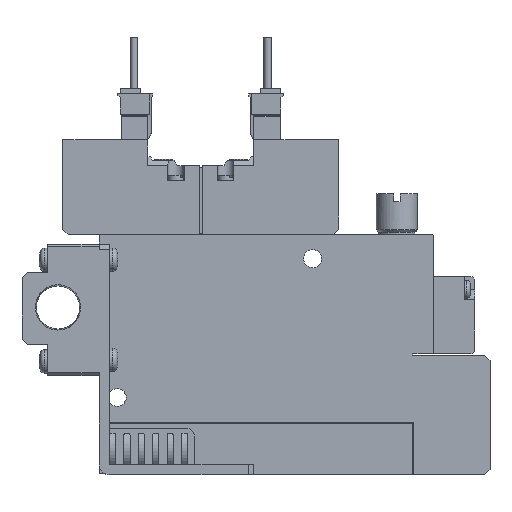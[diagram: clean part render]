
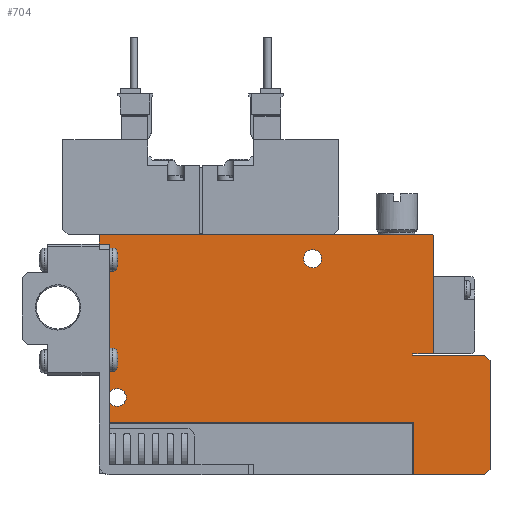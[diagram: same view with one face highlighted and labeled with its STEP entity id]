
A CAD part, top view. The second image highlights one B-rep face of the part: STEP entity #704.
In plain terms, the highlighted planar face has unit normal (0, 0, 1).
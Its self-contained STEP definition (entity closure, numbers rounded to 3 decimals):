
#704=ADVANCED_FACE('',(#1665,#1666,#1667),#1668,.F.);
#1665=FACE_OUTER_BOUND('',#2832,.T.);
#1666=FACE_BOUND('',#2833,.T.);
#1667=FACE_BOUND('',#2834,.T.);
#1668=PLANE('',#2835);
#2832=EDGE_LOOP('',(#6341,#6342,#6343,#6344,#6345,#6346,#6347,#6348,#6349,#6350,#6351,#6352,#6353,#6354));
#2833=EDGE_LOOP('',(#6355));
#2834=EDGE_LOOP('',(#6356));
#2835=AXIS2_PLACEMENT_3D('',#6357,#6358,#6359);
#6341=ORIENTED_EDGE('',*,*,#8533,.T.);
#6342=ORIENTED_EDGE('',*,*,#8404,.F.);
#6343=ORIENTED_EDGE('',*,*,#8588,.F.);
#6344=ORIENTED_EDGE('',*,*,#8361,.T.);
#6345=ORIENTED_EDGE('',*,*,#8451,.T.);
#6346=ORIENTED_EDGE('',*,*,#8586,.T.);
#6347=ORIENTED_EDGE('',*,*,#8255,.T.);
#6348=ORIENTED_EDGE('',*,*,#8252,.T.);
#6349=ORIENTED_EDGE('',*,*,#8259,.T.);
#6350=ORIENTED_EDGE('',*,*,#8345,.T.);
#6351=ORIENTED_EDGE('',*,*,#8217,.T.);
#6352=ORIENTED_EDGE('',*,*,#8214,.T.);
#6353=ORIENTED_EDGE('',*,*,#8221,.T.);
#6354=ORIENTED_EDGE('',*,*,#8575,.T.);
#6355=ORIENTED_EDGE('',*,*,#8589,.F.);
#6356=ORIENTED_EDGE('',*,*,#8582,.F.);
#6357=CARTESIAN_POINT('',(0.0,0.0,5.0));
#6358=DIRECTION('',(0.0,0.0,-1.0));
#6359=DIRECTION('',(0.0,-1.0,0.0));
#8214=EDGE_CURVE('',#10057,#10055,#10058,.T.);
#8217=EDGE_CURVE('',#10062,#10057,#10063,.T.);
#8221=EDGE_CURVE('',#10055,#10067,#10069,.T.);
#8252=EDGE_CURVE('',#10129,#10127,#10130,.T.);
#8255=EDGE_CURVE('',#10134,#10129,#10135,.T.);
#8259=EDGE_CURVE('',#10127,#10139,#10141,.T.);
#8345=EDGE_CURVE('',#10139,#10062,#10302,.T.);
#8361=EDGE_CURVE('',#10326,#10330,#10332,.T.);
#8404=EDGE_CURVE('',#10405,#10406,#10407,.T.);
#8451=EDGE_CURVE('',#10330,#10485,#10487,.T.);
#8533=EDGE_CURVE('',#10614,#10406,#10615,.T.);
#8575=EDGE_CURVE('',#10067,#10614,#10672,.T.);
#8582=EDGE_CURVE('',#10681,#10681,#10682,.T.);
#8586=EDGE_CURVE('',#10485,#10134,#10686,.T.);
#8588=EDGE_CURVE('',#10326,#10405,#10688,.T.);
#8589=EDGE_CURVE('',#10689,#10689,#10690,.T.);
#10055=VERTEX_POINT('',#13047);
#10057=VERTEX_POINT('',#13050);
#10058=LINE('',#13051,#13052);
#10062=VERTEX_POINT('',#13058);
#10063=LINE('',#13059,#13060);
#10067=VERTEX_POINT('',#13066);
#10069=LINE('',#13069,#13070);
#10127=VERTEX_POINT('',#13191);
#10129=VERTEX_POINT('',#13194);
#10130=LINE('',#13195,#13196);
#10134=VERTEX_POINT('',#13202);
#10135=LINE('',#13203,#13204);
#10139=VERTEX_POINT('',#13210);
#10141=LINE('',#13213,#13214);
#10302=LINE('',#13482,#13483);
#10326=VERTEX_POINT('',#13532);
#10330=VERTEX_POINT('',#13538);
#10332=LINE('',#13541,#13542);
#10405=VERTEX_POINT('',#13653);
#10406=VERTEX_POINT('',#13654);
#10407=LINE('',#13655,#13656);
#10485=VERTEX_POINT('',#13780);
#10487=LINE('',#13783,#13784);
#10614=VERTEX_POINT('',#14019);
#10615=LINE('',#14020,#14021);
#10672=LINE('',#14133,#14134);
#10681=VERTEX_POINT('',#14156);
#10682=CIRCLE('',#14157,1.75);
#10686=LINE('',#14164,#14165);
#10688=LINE('',#14168,#14169);
#10689=VERTEX_POINT('',#14170);
#10690=CIRCLE('',#14171,1.75);
#13047=CARTESIAN_POINT('',(64.8,46.6,5.0));
#13050=CARTESIAN_POINT('',(65.0,46.4,5.0));
#13051=CARTESIAN_POINT('',(65.0,46.4,5.0));
#13052=VECTOR('',#16134,1.0);
#13058=CARTESIAN_POINT('',(65.0,23.5,5.0));
#13059=CARTESIAN_POINT('',(65.0,23.5,5.0));
#13060=VECTOR('',#16137,1.0);
#13066=CARTESIAN_POINT('',(0.2,46.6,5.0));
#13069=CARTESIAN_POINT('',(64.8,46.6,5.0));
#13070=VECTOR('',#16141,1.0);
#13191=CARTESIAN_POINT('',(61.0,23.25,5.0));
#13194=CARTESIAN_POINT('',(75.0,23.25,5.0));
#13195=CARTESIAN_POINT('',(75.0,23.25,5.0));
#13196=VECTOR('',#16185,1.0);
#13202=CARTESIAN_POINT('',(76.0,22.25,5.0));
#13203=CARTESIAN_POINT('',(76.0,22.25,5.0));
#13204=VECTOR('',#16188,1.0);
#13210=CARTESIAN_POINT('',(61.0,23.5,5.0));
#13213=CARTESIAN_POINT('',(61.0,23.25,5.0));
#13214=VECTOR('',#16192,1.0);
#13482=CARTESIAN_POINT('',(61.0,23.5,5.0));
#13483=VECTOR('',#16313,1.0);
#13532=CARTESIAN_POINT('',(61.1,0.0,5.0));
#13538=CARTESIAN_POINT('',(75.0,0.0,5.0));
#13541=CARTESIAN_POINT('',(0.0,0.0,5.0));
#13542=VECTOR('',#16335,1.0);
#13653=CARTESIAN_POINT('',(61.1,10.1,5.0));
#13654=CARTESIAN_POINT('',(0.0,10.1,5.0));
#13655=CARTESIAN_POINT('',(61.1,10.1,5.0));
#13656=VECTOR('',#16403,1.0);
#13780=CARTESIAN_POINT('',(76.0,1.0,5.0));
#13783=CARTESIAN_POINT('',(75.0,0.0,5.0));
#13784=VECTOR('',#16463,1.0);
#14019=CARTESIAN_POINT('',(0.0,46.4,5.0));
#14020=CARTESIAN_POINT('',(0.0,46.4,5.0));
#14021=VECTOR('',#16555,1.0);
#14133=CARTESIAN_POINT('',(0.2,46.6,5.0));
#14134=VECTOR('',#16618,1.0);
#14156=CARTESIAN_POINT('',(43.25,42.0,5.0));
#14157=AXIS2_PLACEMENT_3D('',#16626,#16627,#16628);
#14164=CARTESIAN_POINT('',(76.0,1.0,5.0));
#14165=VECTOR('',#16632,1.0);
#14168=CARTESIAN_POINT('',(61.1,0.0,5.0));
#14169=VECTOR('',#16634,1.0);
#14170=CARTESIAN_POINT('',(5.25,15.0,5.0));
#14171=AXIS2_PLACEMENT_3D('',#16635,#16636,#16637);
#16134=DIRECTION('',(-0.707,0.707,0.0));
#16137=DIRECTION('',(0.0,1.0,0.0));
#16141=DIRECTION('',(-1.0,0.0,0.0));
#16185=DIRECTION('',(-1.0,0.0,0.0));
#16188=DIRECTION('',(-0.707,0.707,0.0));
#16192=DIRECTION('',(0.0,1.0,0.0));
#16313=DIRECTION('',(1.0,0.,0.0));
#16335=DIRECTION('',(1.0,0.0,0.0));
#16403=DIRECTION('',(-1.0,0.0,0.0));
#16463=DIRECTION('',(0.707,0.707,0.0));
#16555=DIRECTION('',(0.0,-1.0,0.0));
#16618=DIRECTION('',(-0.707,-0.707,0.0));
#16626=CARTESIAN_POINT('',(41.5,42.0,5.0));
#16627=DIRECTION('',(0.0,0.0,1.0));
#16628=DIRECTION('',(1.0,0.0,0.0));
#16632=DIRECTION('',(0.0,1.0,0.0));
#16634=DIRECTION('',(0.0,1.0,0.0));
#16635=CARTESIAN_POINT('',(3.5,15.0,5.0));
#16636=DIRECTION('',(0.0,0.0,1.0));
#16637=DIRECTION('',(1.0,0.0,0.0));
